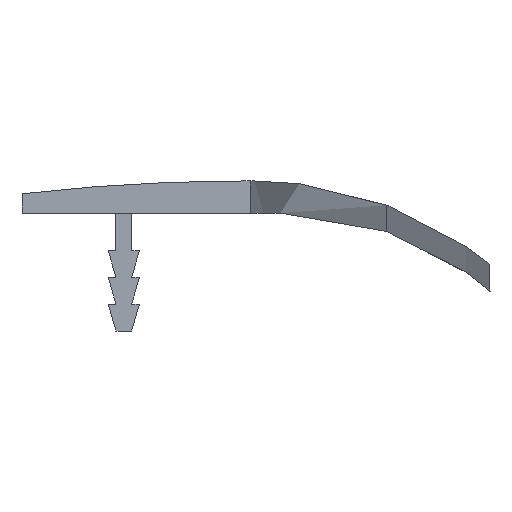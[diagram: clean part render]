
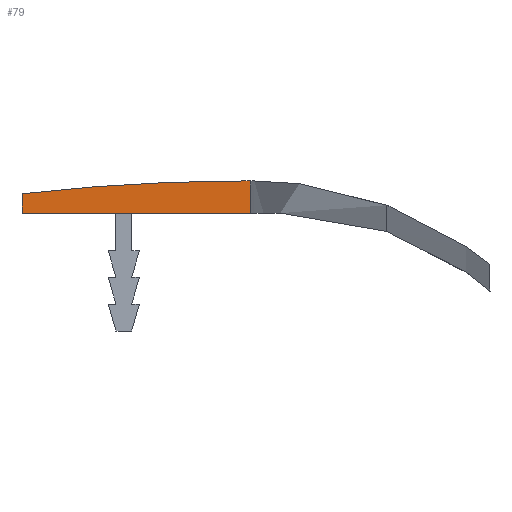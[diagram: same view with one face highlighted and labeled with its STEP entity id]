
A CAD part, left-side view. The second image highlights one B-rep face of the part: STEP entity #79.
In plain terms, the highlighted planar face has unit normal (-1, 0, 0).
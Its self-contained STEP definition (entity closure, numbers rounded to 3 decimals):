
#79 = ADVANCED_FACE( '', ( #174 ), #175, .F. );
#174 = FACE_OUTER_BOUND( '', #285, .T. );
#175 = PLANE( '', #286 );
#285 = EDGE_LOOP( '', ( #384, #385, #386, #387, #388 ) );
#286 = AXIS2_PLACEMENT_3D( '', #389, #390, #391 );
#384 = ORIENTED_EDGE( '', *, *, #687, .F. );
#385 = ORIENTED_EDGE( '', *, *, #688, .F. );
#386 = ORIENTED_EDGE( '', *, *, #689, .F. );
#387 = ORIENTED_EDGE( '', *, *, #690, .F. );
#388 = ORIENTED_EDGE( '', *, *, #691, .F. );
#389 = CARTESIAN_POINT( '', ( -447.5, -12.17, -32.05 ) );
#390 = DIRECTION( '', ( 1., 0., 0. ) );
#391 = DIRECTION( '', ( 0., 0., -1. ) );
#687 = EDGE_CURVE( '', #806, #807, #808, .T. );
#688 = EDGE_CURVE( '', #809, #806, #810, .T. );
#689 = EDGE_CURVE( '', #811, #809, #812, .T. );
#690 = EDGE_CURVE( '', #813, #811, #814, .T. );
#691 = EDGE_CURVE( '', #807, #813, #815, .T. );
#806 = VERTEX_POINT( '', #983 );
#807 = VERTEX_POINT( '', #984 );
#808 = LINE( '', #985, #986 );
#809 = VERTEX_POINT( '', #987 );
#810 = LINE( '', #988, #989 );
#811 = VERTEX_POINT( '', #990 );
#812 = CIRCLE( '', #991, 176.85 );
#813 = VERTEX_POINT( '', #992 );
#814 = LINE( '', #993, #994 );
#815 = LINE( '', #995, #996 );
#983 = CARTESIAN_POINT( '', ( -447.5, -11.8, 3. ) );
#984 = CARTESIAN_POINT( '', ( -447.5, -11.8, 0. ) );
#985 = CARTESIAN_POINT( '', ( -447.5, -11.8, -32.05 ) );
#986 = VECTOR( '', #1310, 1000. );
#987 = CARTESIAN_POINT( '', ( -447.5, -11., 3. ) );
#988 = CARTESIAN_POINT( '', ( -447.5, -11., 3. ) );
#989 = VECTOR( '', #1311, 1000. );
#990 = CARTESIAN_POINT( '', ( -447.5, 9.5, 1.808 ) );
#991 = AXIS2_PLACEMENT_3D( '', #1312, #1313, #1314 );
#992 = CARTESIAN_POINT( '', ( -447.5, 9.5, 0. ) );
#993 = CARTESIAN_POINT( '', ( -447.5, 9.5, 0. ) );
#994 = VECTOR( '', #1315, 1000. );
#995 = CARTESIAN_POINT( '', ( -447.5, -14.59, 0. ) );
#996 = VECTOR( '', #1316, 1000. );
#1310 = DIRECTION( '', ( 0., 0., -1. ) );
#1311 = DIRECTION( '', ( 0., -1., 0. ) );
#1312 = CARTESIAN_POINT( '', ( -447.5, -11., -173.85 ) );
#1313 = DIRECTION( '', ( 1., 0., 0. ) );
#1314 = DIRECTION( '', ( 0., 0., -1. ) );
#1315 = DIRECTION( '', ( 0., 0., 1. ) );
#1316 = DIRECTION( '', ( 0., 1., 0. ) );
